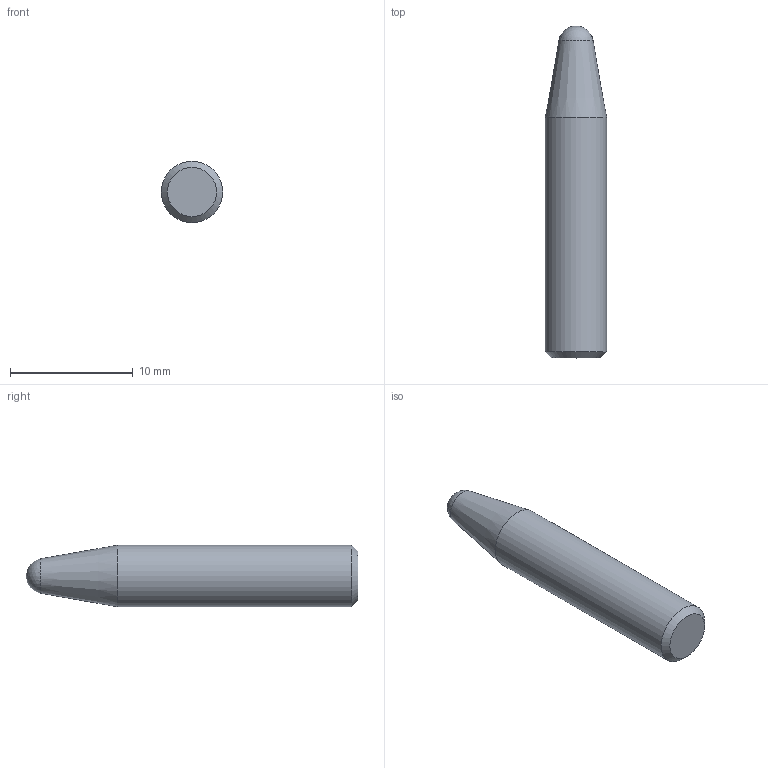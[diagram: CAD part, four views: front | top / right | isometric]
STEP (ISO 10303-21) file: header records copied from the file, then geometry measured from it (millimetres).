
FILE_DESCRIPTION(/* description */ (' Dowel Pin 5mm'),/* implementation_level */ '2;1');
FILE_NAME(/* name */ 'Z:\Werkstatt Server\Projekte\Atlas\Entwicklung u. Konstruktion\Konstruktion\CAD Daten\ITkPixToolV2.0\Baremodule Jig\ITPTv2.01.00.21.stp',/* time_stamp */ '2021-08-06T14:56:54+02:00',/* author */ ('Tim Kanngießer'),/* organization */ (''),/* preprocessor_version */ 'ST-DEVELOPER v18.1',/* originating_system */ 'Autodesk Inventor 2022',/* authorisation */ '');
FILE_SCHEMA (('AUTOMOTIVE_DESIGN { 1 0 10303 214 3 1 1 }','PROCESS_PLANNING_SCHEMA'));
Length unit declared in the file: millimetre
Products named in the file (1): ITPTv2.01.00.21
Bounding box: 5 x 27.02 x 5 mm (x, y, z)
Volume: 464 mm3; surface area: 410.7 mm2
Topology: 1 solids, 1 shells, 5 faces, 8 edges, 5 vertices
Faces by surface type: cone 2, plane 1, cylinder 1, sphere 1
Full cylindrical faces by diameter (mm): 5 x1
Entity records: 160 total; most frequent: DIRECTION 25, CARTESIAN_POINT 19, ORIENTED_EDGE 16, AXIS2_PLACEMENT_3D 11, EDGE_CURVE 8, FACE_OUTER_BOUND 5, EDGE_LOOP 5, CIRCLE 5
